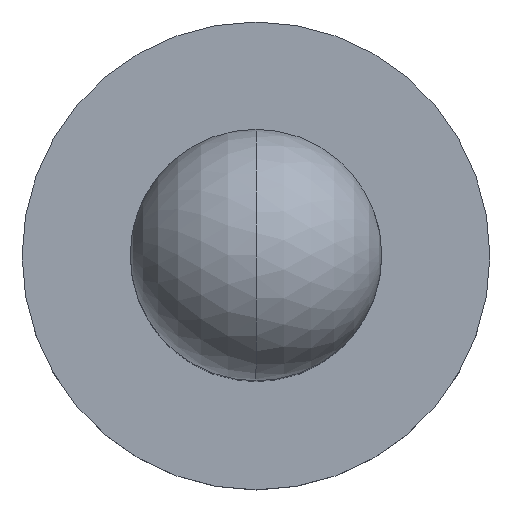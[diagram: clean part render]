
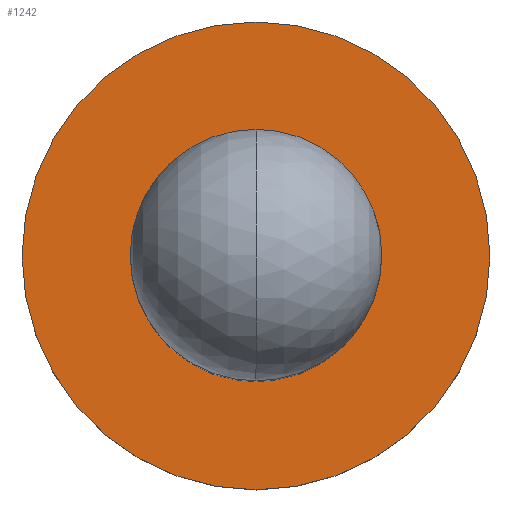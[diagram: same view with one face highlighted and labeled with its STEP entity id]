
A CAD part, top view. The second image highlights one B-rep face of the part: STEP entity #1242.
In plain terms, the highlighted planar face has unit normal (0, 0, 1).
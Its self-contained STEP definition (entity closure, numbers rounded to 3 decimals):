
#27 = DIRECTION ( 'NONE',  ( 0., 1., 0. ) ) ;
#156 = CARTESIAN_POINT ( 'NONE',  ( 0., -0.75, 6.78 ) ) ;
#167 = VERTEX_POINT ( 'NONE', #156 ) ;
#227 = CARTESIAN_POINT ( 'NONE',  ( 0., 1.395, 6.78 ) ) ;
#240 = FACE_OUTER_BOUND ( 'NONE', #277, .T. ) ;
#258 = EDGE_CURVE ( 'NONE', #981, #1220, #476, .T. ) ;
#276 = CIRCLE ( 'NONE', #1183, 0.75 ) ;
#277 = EDGE_LOOP ( 'NONE', ( #800, #563 ) ) ;
#315 = CARTESIAN_POINT ( 'NONE',  ( 0., -1.395, 6.78 ) ) ;
#324 = FACE_BOUND ( 'NONE', #491, .T. ) ;
#338 = AXIS2_PLACEMENT_3D ( 'NONE', #585, #869, #1063 ) ;
#342 = PLANE ( 'NONE',  #723 ) ;
#410 = CARTESIAN_POINT ( 'NONE',  ( 0., 1.395, 6.78 ) ) ;
#412 = EDGE_CURVE ( 'NONE', #1220, #981, #558, .T. ) ;
#421 = DIRECTION ( 'NONE',  ( 0., 0., 1. ) ) ;
#470 = DIRECTION ( 'NONE',  ( 0., -1., 0. ) ) ;
#476 = CIRCLE ( 'NONE', #338, 1.395 ) ;
#484 = ORIENTED_EDGE ( 'NONE', *, *, #753, .F. ) ;
#491 = EDGE_LOOP ( 'NONE', ( #484, #897 ) ) ;
#558 = CIRCLE ( 'NONE', #983, 1.395 ) ;
#563 = ORIENTED_EDGE ( 'NONE', *, *, #412, .T. ) ;
#585 = CARTESIAN_POINT ( 'NONE',  ( 0., 0., 6.78 ) ) ;
#607 = CIRCLE ( 'NONE', #630, 0.75 ) ;
#630 = AXIS2_PLACEMENT_3D ( 'NONE', #794, #892, #1078 ) ;
#635 = EDGE_CURVE ( 'NONE', #1130, #167, #607, .T. ) ;
#645 = CARTESIAN_POINT ( 'NONE',  ( 0., 0.75, 6.78 ) ) ;
#723 = AXIS2_PLACEMENT_3D ( 'NONE', #227, #738, #27 ) ;
#738 = DIRECTION ( 'NONE',  ( 0., 0., -1. ) ) ;
#753 = EDGE_CURVE ( 'NONE', #167, #1130, #276, .T. ) ;
#787 = CARTESIAN_POINT ( 'NONE',  ( 0., 0., 6.78 ) ) ;
#794 = CARTESIAN_POINT ( 'NONE',  ( 0., 0., 6.78 ) ) ;
#800 = ORIENTED_EDGE ( 'NONE', *, *, #258, .T. ) ;
#869 = DIRECTION ( 'NONE',  ( 0., 0., 1. ) ) ;
#892 = DIRECTION ( 'NONE',  ( 0., 0., 1. ) ) ;
#897 = ORIENTED_EDGE ( 'NONE', *, *, #635, .F. ) ;
#924 = CARTESIAN_POINT ( 'NONE',  ( 0., 0., 6.78 ) ) ;
#981 = VERTEX_POINT ( 'NONE', #315 ) ;
#983 = AXIS2_PLACEMENT_3D ( 'NONE', #787, #1185, #470 ) ;
#1063 = DIRECTION ( 'NONE',  ( 0., -1., 0. ) ) ;
#1078 = DIRECTION ( 'NONE',  ( 0., -1., 0. ) ) ;
#1130 = VERTEX_POINT ( 'NONE', #645 ) ;
#1183 = AXIS2_PLACEMENT_3D ( 'NONE', #924, #421, #1227 ) ;
#1185 = DIRECTION ( 'NONE',  ( 0., 0., 1. ) ) ;
#1220 = VERTEX_POINT ( 'NONE', #410 ) ;
#1227 = DIRECTION ( 'NONE',  ( 0., -1., 0. ) ) ;
#1242 = ADVANCED_FACE ( 'NONE', ( #324, #240 ), #342, .F. ) ;
